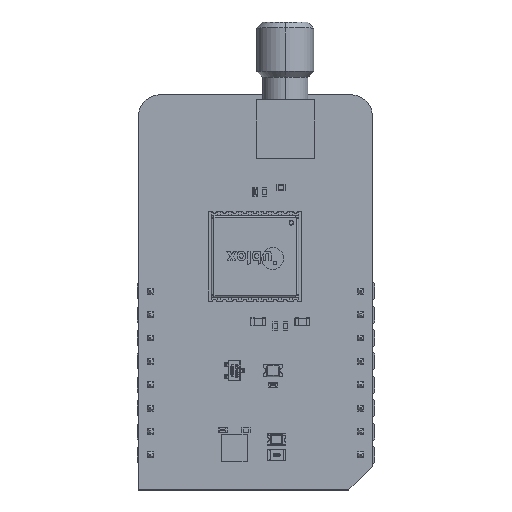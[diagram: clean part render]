
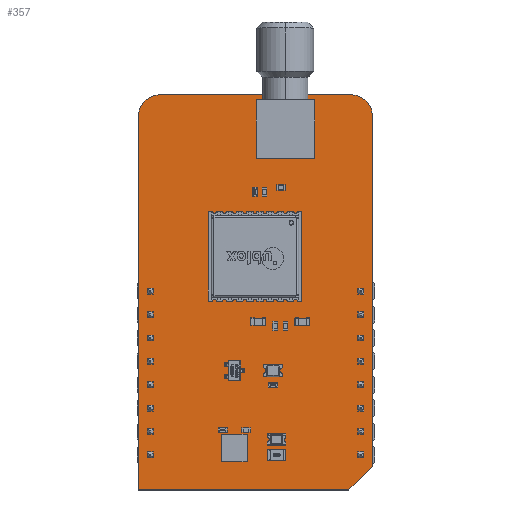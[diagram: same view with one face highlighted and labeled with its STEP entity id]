
A CAD part, top view. The second image highlights one B-rep face of the part: STEP entity #357.
In plain terms, the highlighted planar face has unit normal (0, 0, 1).
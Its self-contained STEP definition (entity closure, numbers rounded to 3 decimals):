
#128 = VERTEX_POINT('',#129);
#129 = CARTESIAN_POINT('',(-1.27,-3.81,1.65));
#135 = EDGE_CURVE('',#128,#136,#138,.T.);
#136 = VERTEX_POINT('',#137);
#137 = CARTESIAN_POINT('',(-1.27,36.83,1.65));
#138 = LINE('',#139,#140);
#139 = CARTESIAN_POINT('',(-1.27,-3.81,1.65));
#140 = VECTOR('',#141,1.);
#141 = DIRECTION('',(0.,1.,0.));
#166 = EDGE_CURVE('',#136,#167,#169,.T.);
#167 = VERTEX_POINT('',#168);
#168 = CARTESIAN_POINT('',(1.016,39.116,1.65));
#169 = CIRCLE('',#170,2.288);
#170 = AXIS2_PLACEMENT_3D('',#171,#172,#173);
#171 = CARTESIAN_POINT('',(1.018,36.828,1.65));
#172 = DIRECTION('',(0.,0.,-1.));
#173 = DIRECTION('',(-1.,0.001,0.));
#199 = EDGE_CURVE('',#167,#200,#202,.T.);
#200 = VERTEX_POINT('',#201);
#201 = CARTESIAN_POINT('',(21.844,39.116,1.65));
#202 = LINE('',#203,#204);
#203 = CARTESIAN_POINT('',(1.016,39.116,1.65));
#204 = VECTOR('',#205,1.);
#205 = DIRECTION('',(1.,0.,0.));
#230 = EDGE_CURVE('',#200,#231,#233,.T.);
#231 = VERTEX_POINT('',#232);
#232 = CARTESIAN_POINT('',(24.13,36.83,1.65));
#233 = CIRCLE('',#234,2.288);
#234 = AXIS2_PLACEMENT_3D('',#235,#236,#237);
#235 = CARTESIAN_POINT('',(21.842,36.828,1.65));
#236 = DIRECTION('',(0.,0.,-1.));
#237 = DIRECTION('',(0.001,1.,0.));
#263 = EDGE_CURVE('',#231,#264,#266,.T.);
#264 = VERTEX_POINT('',#265);
#265 = CARTESIAN_POINT('',(24.13,-1.27,1.65));
#266 = LINE('',#267,#268);
#267 = CARTESIAN_POINT('',(24.13,36.83,1.65));
#268 = VECTOR('',#269,1.);
#269 = DIRECTION('',(0.,-1.,0.));
#294 = EDGE_CURVE('',#264,#295,#297,.T.);
#295 = VERTEX_POINT('',#296);
#296 = CARTESIAN_POINT('',(21.59,-3.81,1.65));
#297 = LINE('',#298,#299);
#298 = CARTESIAN_POINT('',(24.13,-1.27,1.65));
#299 = VECTOR('',#300,1.);
#300 = DIRECTION('',(-0.707,-0.707,0.));
#325 = EDGE_CURVE('',#295,#128,#326,.T.);
#326 = LINE('',#327,#328);
#327 = CARTESIAN_POINT('',(21.59,-3.81,1.65));
#328 = VECTOR('',#329,1.);
#329 = DIRECTION('',(-1.,0.,0.));
#357 = ADVANCED_FACE('',(#358),#367,.F.);
#358 = FACE_BOUND('',#359,.F.);
#359 = EDGE_LOOP('',(#360,#361,#362,#363,#364,#365,#366));
#360 = ORIENTED_EDGE('',*,*,#135,.T.);
#361 = ORIENTED_EDGE('',*,*,#166,.T.);
#362 = ORIENTED_EDGE('',*,*,#199,.T.);
#363 = ORIENTED_EDGE('',*,*,#230,.T.);
#364 = ORIENTED_EDGE('',*,*,#263,.T.);
#365 = ORIENTED_EDGE('',*,*,#294,.T.);
#366 = ORIENTED_EDGE('',*,*,#325,.T.);
#367 = PLANE('',#368);
#368 = AXIS2_PLACEMENT_3D('',#369,#370,#371);
#369 = CARTESIAN_POINT('',(11.278,17.566,1.65));
#370 = DIRECTION('',(-0.,-0.,-1.));
#371 = DIRECTION('',(-1.,0.,0.));
